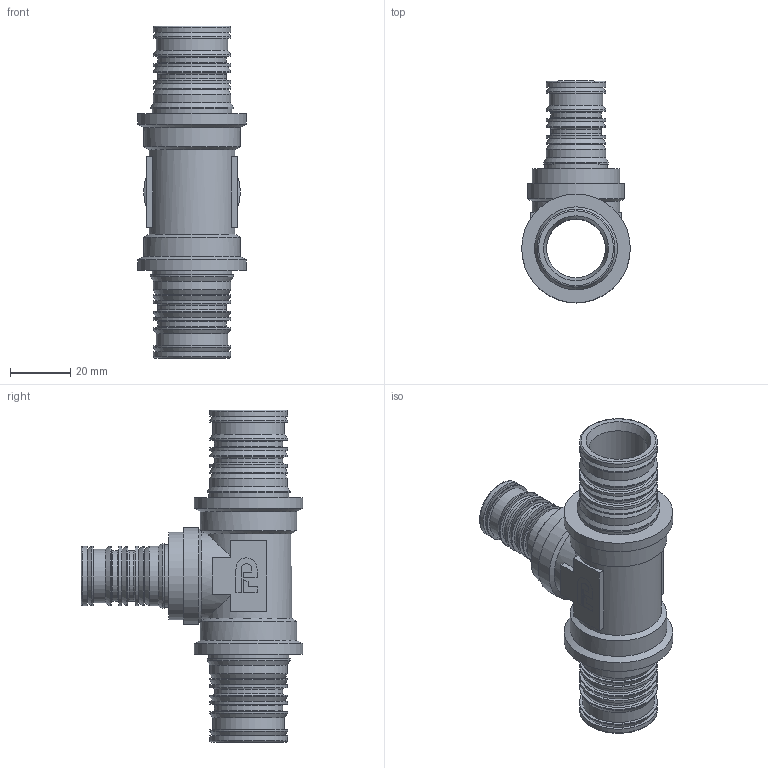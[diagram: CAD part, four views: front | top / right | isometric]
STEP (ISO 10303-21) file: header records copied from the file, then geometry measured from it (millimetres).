
FILE_DESCRIPTION(/* description */ (''),/* implementation_level */ '2;1');
FILE_NAME(/* name */ 'C:\Users\Doom\Desktop\Фадотех\Пресс\HDT33-1 31.03.2020\HDT33-1 31.03.2020.stp',/* time_stamp */ '2022-08-12T21:24:22+03:00',/* author */ ('Doom'),/* organization */ (''),/* preprocessor_version */ 'ST-DEVELOPER v18',/* originating_system */ 'Autodesk Inventor 2020',/* authorisation */ '');
FILE_SCHEMA (('AUTOMOTIVE_DESIGN { 1 0 10303 214 3 1 1 }'));
Length unit declared in the file: millimetre
Products named in the file (1): HDT33-1 31.03.2020
Bounding box: 36 x 73.5 x 110 mm (x, y, z)
Volume: 45305.8 mm3; surface area: 26071.3 mm2
Topology: 1 solids, 1 shells, 185 faces, 523 edges, 375 vertices
Faces by surface type: plane 87, cylinder 49, cone 26, torus 15, bspline 8
Full cylindrical faces by diameter (mm): 14.5 x1, 16.6 x2, 17.8 x1, 19.5 x1, 19.8 x8, 20.8 x1, 21.5 x1, 22.6 x4, 23.8 x2, 25.8 x16, 26.5 x2, 27.5 x2, 29 x2, 32 x3, 36 x2
Entity records: 6448 total; most frequent: CARTESIAN_POINT 1318, DIRECTION 1125, ORIENTED_EDGE 1046, EDGE_CURVE 523, AXIS2_PLACEMENT_3D 458, VERTEX_POINT 375, CIRCLE 280, EDGE_LOOP 228
